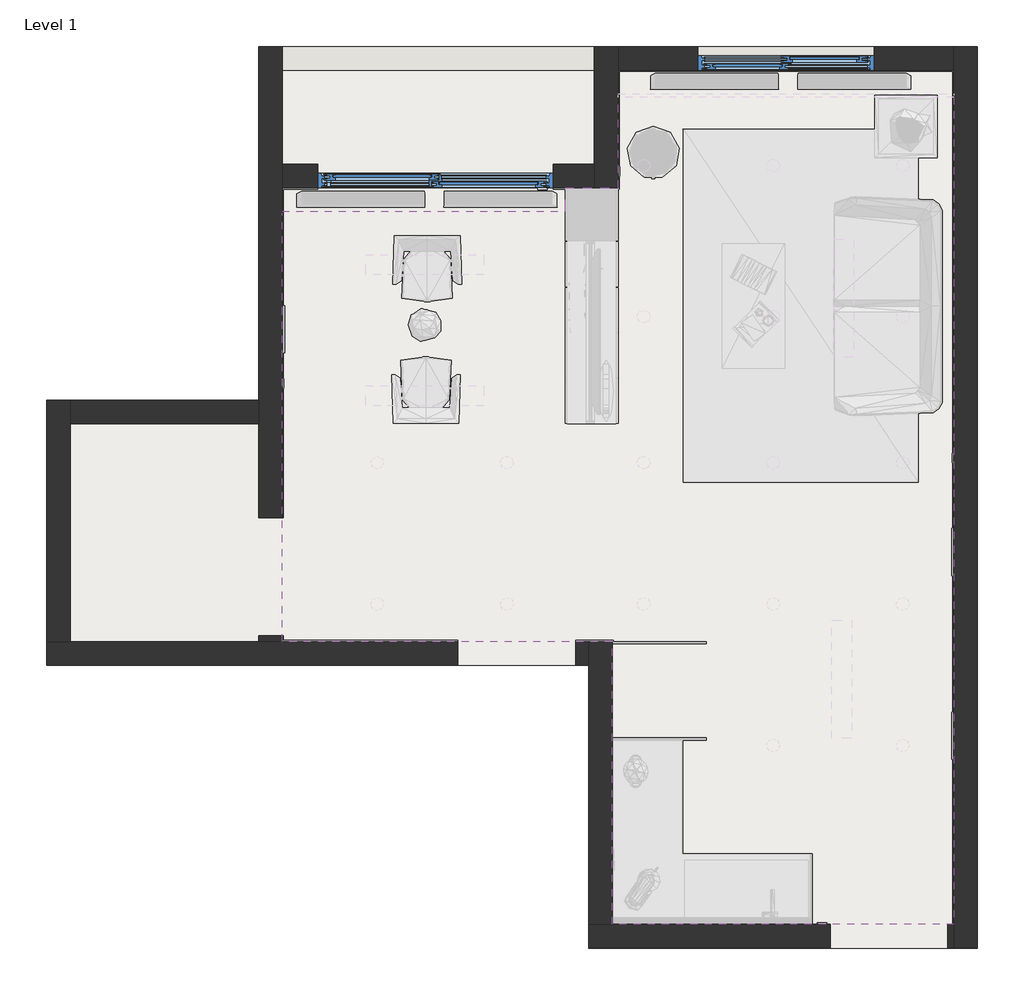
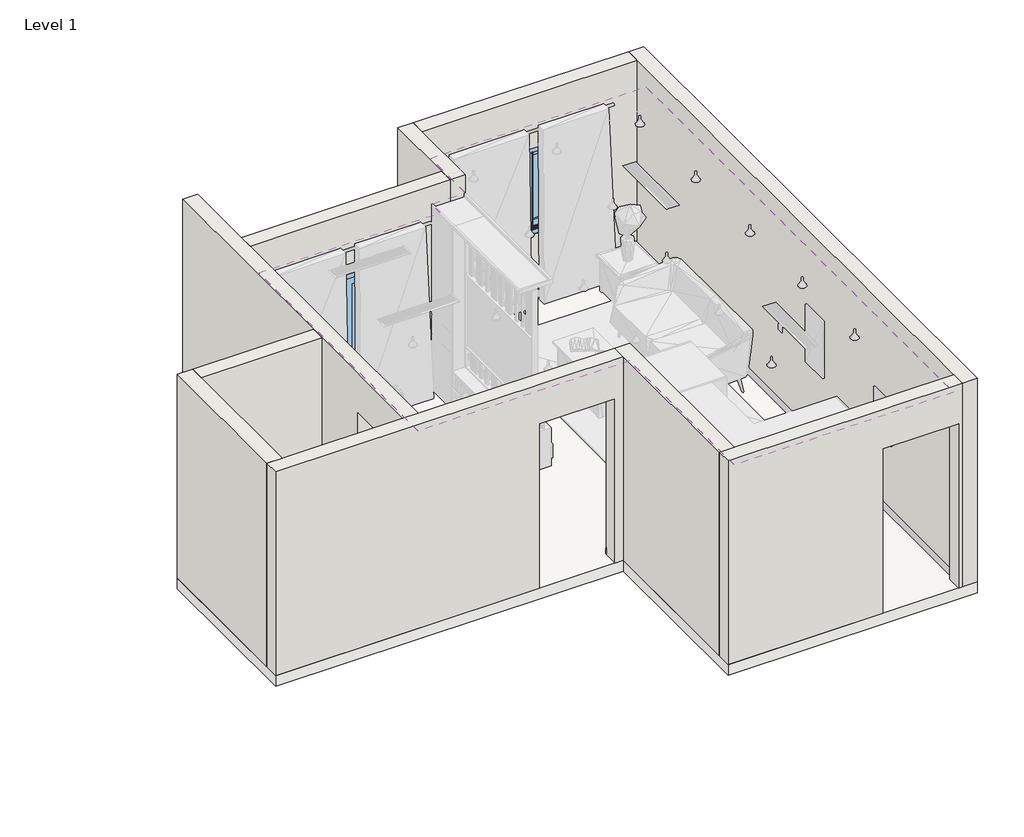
# One storey, part 1 of 4: 11 walls, 2 windows, 1 covering, 1 slab.
"""IFC4 building model written with IfcOpenShell, lengths in millimetres."""

from ifc_helpers import new_model, si_unit, frame, origin, origin_with_axes, place, context, project, spatial, polyline, circle_curve, outline, extrude, faceted_brep, transform, mapped, element, save
from ifc_brep_helpers import plane_surface, revolved_surface, advanced_brep
from components import window_30185021, window_ca4f18a3

model = new_model("IFC4")

# Units and contexts
model_context = context("Model", 3, world=origin())
ifc_project = project(units=[si_unit("LENGTHUNIT", "METRE", prefix="MILLI")], contexts=[model_context])

# Site, building, storey
site = spatial("IfcSite", under=ifc_project)
building = spatial("IfcBuilding", under=site)
storey = spatial("IfcBuildingStorey", under=building, Name="Level 1", Elevation=0.0)

# Covering
placement = place(None, origin())
element("IfcCovering", 1, ObjectType="600 x 1200mm Grid", at=placement, inside=storey, context=model_context, shape_type="AdvancedBrep", body=[
    advanced_brep(
    [(-1392.1161882, 368.9239272, 2630.0), (-3792.1161882, 368.9239272, 2630.0), (-3792.1161882, -3281.0760728, 2630.0), (-992.1161882, -3281.0760728, 2630.0), (-992.1161882, -5681.0760728, 2630.0), (1907.8838118, -5681.0760728, 2630.0), (1907.8838118, 1368.9239272, 2630.0), (-942.1161882, 1368.9239272, 2630.0), (-942.1161882, 568.9239272, 2630.0), (-1392.1161882, 568.9239272, 2630.0), (-2929.5820154, -1762.4738533, 2630.0), (-3040.318702, -1762.4738533, 2630.0), (-2929.5820154, -2962.4738533, 2630.0), (-3040.318702, -2962.4738533, 2630.0), (-1829.5820154, -1762.4738533, 2630.0), (-1940.318702, -1762.4738533, 2630.0), (-1829.5820154, -2962.4738533, 2630.0), (-1940.318702, -2962.4738533, 2630.0), (-669.5820154, -1762.4738533, 2630.0), (-780.318702, -1762.4738533, 2630.0), (-669.5820154, -2962.4738533, 2630.0), (-780.318702, -2962.4738533, 2630.0), (430.4179846, -1762.4738533, 2630.0), (319.681298, -1762.4738533, 2630.0), (430.4179846, -2962.4738533, 2630.0), (319.681298, -2962.4738533, 2630.0), (1530.4179846, -1762.4738533, 2630.0), (1419.681298, -1762.4738533, 2630.0), (1530.4179846, -2962.4738533, 2630.0), (1419.681298, -2962.4738533, 2630.0), (1530.4179846, -4162.4738533, 2630.0), (1419.681298, -4162.4738533, 2630.0), (430.4179846, -4162.4738533, 2630.0), (319.681298, -4162.4738533, 2630.0), (1530.4179846, -522.4738533, 2630.0), (1419.681298, -522.4738533, 2630.0), (430.4179846, -522.4738533, 2630.0), (319.681298, -522.4738533, 2630.0), (-669.5820154, -522.4738533, 2630.0), (-780.318702, -522.4738533, 2630.0), (1530.4179846, 757.5261467, 2630.0), (1419.681298, 757.5261467, 2630.0), (430.4179846, 757.5261467, 2630.0), (319.681298, 757.5261467, 2630.0), (-669.5820154, 757.5261467, 2630.0), (-780.318702, 757.5261467, 2630.0), (-2082.1161882, 2.4659434, 2630.0), (-2082.1161882, -167.5340566, 2630.0), (-3082.1161882, -167.5340566, 2630.0), (-3082.1161882, 2.4659434, 2630.0), (-2082.1161882, -1111.2192408, 2630.0), (-2082.1161882, -1281.2192408, 2630.0), (-3082.1161882, -1281.2192408, 2630.0), (-3082.1161882, -1111.2192408, 2630.0), (1042.7021134, -3101.0760728, 2630.0), (1042.7021134, -4101.0760728, 2630.0), (872.7021134, -4101.0760728, 2630.0), (872.7021134, -3101.0760728, 2630.0), (1058.0838118, -866.9079454, 2630.0), (888.0838118, -866.9079454, 2630.0), (888.0838118, 133.0920546, 2630.0), (1058.0838118, 133.0920546, 2630.0), (-3792.1161882, 368.9239272, 2600.0), (-1392.1161882, 368.9239272, 2600.0), (-1392.1161882, 568.9239272, 2600.0), (-942.1161882, 568.9239272, 2600.0), (-942.1161882, 1338.9239272, 2600.0), (-942.1161882, 1368.9239272, 2600.0), (1907.8838118, 1368.9239272, 2600.0), (1907.8838118, 1338.9239272, 2600.0), (1907.8838118, -5681.0760728, 2600.0), (-992.1161882, -5681.0760728, 2600.0), (-992.1161882, -3281.0760728, 2600.0), (-3792.1161882, -3281.0760728, 2600.0), (-3792.1161882, 338.9239272, 2600.0), (-3040.318702, -1762.4738533, 2600.0), (-2929.5820154, -1762.4738533, 2600.0), (-3040.318702, -2962.4738533, 2600.0), (-2929.5820154, -2962.4738533, 2600.0), (-1940.318702, -1762.4738533, 2600.0), (-1829.5820154, -1762.4738533, 2600.0), (-1940.318702, -2962.4738533, 2600.0), (-1829.5820154, -2962.4738533, 2600.0), (-780.318702, -1762.4738533, 2600.0), (-669.5820154, -1762.4738533, 2600.0), (-780.318702, -2962.4738533, 2600.0), (-669.5820154, -2962.4738533, 2600.0), (319.681298, -1762.4738533, 2600.0), (430.4179846, -1762.4738533, 2600.0), (319.681298, -2962.4738533, 2600.0), (430.4179846, -2962.4738533, 2600.0), (1419.681298, -1762.4738533, 2600.0), (1530.4179846, -1762.4738533, 2600.0), (1419.681298, -2962.4738533, 2600.0), (1530.4179846, -2962.4738533, 2600.0), (1419.681298, -4162.4738533, 2600.0), (1530.4179846, -4162.4738533, 2600.0), (319.681298, -4162.4738533, 2600.0), (430.4179846, -4162.4738533, 2600.0), (1419.681298, -522.4738533, 2600.0), (1530.4179846, -522.4738533, 2600.0), (319.681298, -522.4738533, 2600.0), (430.4179846, -522.4738533, 2600.0), (-780.318702, -522.4738533, 2600.0), (-669.5820154, -522.4738533, 2600.0), (1419.681298, 757.5261467, 2600.0), (1530.4179846, 757.5261467, 2600.0), (319.681298, 757.5261467, 2600.0), (430.4179846, 757.5261467, 2600.0), (-780.318702, 757.5261467, 2600.0), (-669.5820154, 757.5261467, 2600.0), (-2082.1161882, -167.5340566, 2600.0), (-2082.1161882, 2.4659434, 2600.0), (-3082.1161882, 2.4659434, 2600.0), (-3082.1161882, -167.5340566, 2600.0), (-2082.1161882, -1281.2192408, 2600.0), (-2082.1161882, -1111.2192408, 2600.0), (-3082.1161882, -1111.2192408, 2600.0), (-3082.1161882, -1281.2192408, 2600.0), (1042.7021134, -4101.0760728, 2600.0), (1042.7021134, -3101.0760728, 2600.0), (872.7021134, -3101.0760728, 2600.0), (872.7021134, -4101.0760728, 2600.0), (888.0838118, -866.9079454, 2600.0), (1058.0838118, -866.9079454, 2600.0), (1058.0838118, 133.0920546, 2600.0), (888.0838118, 133.0920546, 2600.0)],
    [
        (0, 1),
        (1, 2),
        (2, 3),
        (3, 4),
        (4, 5),
        (5, 6),
        (6, 7),
        (7, 8),
        (8, 9),
        (9, 0),
        (10, 11, circle_curve(frame((-2984.9503587, -1762.4738533, 2630.0), z_axis=(0.0, 0.0, -1.0), x_axis=(-1.0, 0.0, 0.0)), 55.3683433)),
        (11, 10, circle_curve(frame((-2984.9503587, -1762.4738533, 2630.0), z_axis=(0.0, 0.0, -1.0), x_axis=(-1.0, 0.0, 0.0)), 55.3683433)),
        (12, 13, circle_curve(frame((-2984.9503587, -2962.4738533, 2630.0), z_axis=(0.0, 0.0, -1.0), x_axis=(-1.0, 0.0, 0.0)), 55.3683433)),
        (13, 12, circle_curve(frame((-2984.9503587, -2962.4738533, 2630.0), z_axis=(0.0, 0.0, -1.0), x_axis=(-1.0, 0.0, 0.0)), 55.3683433)),
        (14, 15, circle_curve(frame((-1884.9503587, -1762.4738533, 2630.0), z_axis=(0.0, 0.0, -1.0), x_axis=(-1.0, 0.0, 0.0)), 55.3683433)),
        (15, 14, circle_curve(frame((-1884.9503587, -1762.4738533, 2630.0), z_axis=(0.0, 0.0, -1.0), x_axis=(-1.0, 0.0, 0.0)), 55.3683433)),
        (16, 17, circle_curve(frame((-1884.9503587, -2962.4738533, 2630.0), z_axis=(0.0, 0.0, -1.0), x_axis=(-1.0, 0.0, 0.0)), 55.3683433)),
        (17, 16, circle_curve(frame((-1884.9503587, -2962.4738533, 2630.0), z_axis=(0.0, 0.0, -1.0), x_axis=(-1.0, 0.0, 0.0)), 55.3683433)),
        (18, 19, circle_curve(frame((-724.9503587, -1762.4738533, 2630.0), z_axis=(0.0, 0.0, -1.0), x_axis=(-1.0, 0.0, 0.0)), 55.3683433)),
        (19, 18, circle_curve(frame((-724.9503587, -1762.4738533, 2630.0), z_axis=(0.0, 0.0, -1.0), x_axis=(-1.0, 0.0, 0.0)), 55.3683433)),
        (20, 21, circle_curve(frame((-724.9503587, -2962.4738533, 2630.0), z_axis=(0.0, 0.0, -1.0), x_axis=(-1.0, 0.0, 0.0)), 55.3683433)),
        (21, 20, circle_curve(frame((-724.9503587, -2962.4738533, 2630.0), z_axis=(0.0, 0.0, -1.0), x_axis=(-1.0, 0.0, 0.0)), 55.3683433)),
        (22, 23, circle_curve(frame((375.0496413, -1762.4738533, 2630.0), z_axis=(0.0, 0.0, -1.0), x_axis=(-1.0, 0.0, 0.0)), 55.3683433)),
        (23, 22, circle_curve(frame((375.0496413, -1762.4738533, 2630.0), z_axis=(0.0, 0.0, -1.0), x_axis=(-1.0, 0.0, 0.0)), 55.3683433)),
        (24, 25, circle_curve(frame((375.0496413, -2962.4738533, 2630.0), z_axis=(0.0, 0.0, -1.0), x_axis=(-1.0, 0.0, 0.0)), 55.3683433)),
        (25, 24, circle_curve(frame((375.0496413, -2962.4738533, 2630.0), z_axis=(0.0, 0.0, -1.0), x_axis=(-1.0, 0.0, 0.0)), 55.3683433)),
        (26, 27, circle_curve(frame((1475.0496413, -1762.4738533, 2630.0), z_axis=(0.0, 0.0, -1.0), x_axis=(-1.0, 0.0, 0.0)), 55.3683433)),
        (27, 26, circle_curve(frame((1475.0496413, -1762.4738533, 2630.0), z_axis=(0.0, 0.0, -1.0), x_axis=(-1.0, 0.0, 0.0)), 55.3683433)),
        (28, 29, circle_curve(frame((1475.0496413, -2962.4738533, 2630.0), z_axis=(0.0, 0.0, -1.0), x_axis=(-1.0, 0.0, 0.0)), 55.3683433)),
        (29, 28, circle_curve(frame((1475.0496413, -2962.4738533, 2630.0), z_axis=(0.0, 0.0, -1.0), x_axis=(-1.0, 0.0, 0.0)), 55.3683433)),
        (30, 31, circle_curve(frame((1475.0496413, -4162.4738533, 2630.0), z_axis=(0.0, 0.0, -1.0), x_axis=(-1.0, 0.0, 0.0)), 55.3683433)),
        (31, 30, circle_curve(frame((1475.0496413, -4162.4738533, 2630.0), z_axis=(0.0, 0.0, -1.0), x_axis=(-1.0, 0.0, 0.0)), 55.3683433)),
        (32, 33, circle_curve(frame((375.0496413, -4162.4738533, 2630.0), z_axis=(0.0, 0.0, -1.0), x_axis=(-1.0, 0.0, 0.0)), 55.3683433)),
        (33, 32, circle_curve(frame((375.0496413, -4162.4738533, 2630.0), z_axis=(0.0, 0.0, -1.0), x_axis=(-1.0, 0.0, 0.0)), 55.3683433)),
        (34, 35, circle_curve(frame((1475.0496413, -522.4738533, 2630.0), z_axis=(0.0, 0.0, -1.0), x_axis=(-1.0, 0.0, 0.0)), 55.3683433)),
        (35, 34, circle_curve(frame((1475.0496413, -522.4738533, 2630.0), z_axis=(0.0, 0.0, -1.0), x_axis=(-1.0, 0.0, 0.0)), 55.3683433)),
        (36, 37, circle_curve(frame((375.0496413, -522.4738533, 2630.0), z_axis=(0.0, 0.0, -1.0), x_axis=(-1.0, 0.0, 0.0)), 55.3683433)),
        (37, 36, circle_curve(frame((375.0496413, -522.4738533, 2630.0), z_axis=(0.0, 0.0, -1.0), x_axis=(-1.0, 0.0, 0.0)), 55.3683433)),
        (38, 39, circle_curve(frame((-724.9503587, -522.4738533, 2630.0), z_axis=(0.0, 0.0, -1.0), x_axis=(-1.0, 0.0, 0.0)), 55.3683433)),
        (39, 38, circle_curve(frame((-724.9503587, -522.4738533, 2630.0), z_axis=(0.0, 0.0, -1.0), x_axis=(-1.0, 0.0, 0.0)), 55.3683433)),
        (40, 41, circle_curve(frame((1475.0496413, 757.5261467, 2630.0), z_axis=(0.0, 0.0, -1.0), x_axis=(-1.0, 0.0, 0.0)), 55.3683433)),
        (41, 40, circle_curve(frame((1475.0496413, 757.5261467, 2630.0), z_axis=(0.0, 0.0, -1.0), x_axis=(-1.0, 0.0, 0.0)), 55.3683433)),
        (42, 43, circle_curve(frame((375.0496413, 757.5261467, 2630.0), z_axis=(0.0, 0.0, -1.0), x_axis=(-1.0, 0.0, 0.0)), 55.3683433)),
        (43, 42, circle_curve(frame((375.0496413, 757.5261467, 2630.0), z_axis=(0.0, 0.0, -1.0), x_axis=(-1.0, 0.0, 0.0)), 55.3683433)),
        (44, 45, circle_curve(frame((-724.9503587, 757.5261467, 2630.0), z_axis=(0.0, 0.0, -1.0), x_axis=(-1.0, 0.0, 0.0)), 55.3683433)),
        (45, 44, circle_curve(frame((-724.9503587, 757.5261467, 2630.0), z_axis=(0.0, 0.0, -1.0), x_axis=(-1.0, 0.0, 0.0)), 55.3683433)),
        (46, 47),
        (47, 48),
        (48, 49),
        (49, 46),
        (50, 51),
        (51, 52),
        (52, 53),
        (53, 50),
        (54, 55),
        (55, 56),
        (56, 57),
        (57, 54),
        (58, 59),
        (59, 60),
        (60, 61),
        (61, 58),
        (62, 63),
        (63, 64),
        (64, 65),
        (65, 66),
        (66, 67),
        (67, 68),
        (68, 69),
        (69, 70),
        (70, 71),
        (71, 72),
        (72, 73),
        (73, 74),
        (74, 62),
        (75, 76, circle_curve(frame((-2984.9503587, -1762.4738533, 2600.0), z_axis=(0.0, 0.0, 1.0), x_axis=(-1.0, 0.0, 0.0)), 55.3683433)),
        (76, 75, circle_curve(frame((-2984.9503587, -1762.4738533, 2600.0), z_axis=(0.0, 0.0, 1.0), x_axis=(-1.0, 0.0, 0.0)), 55.3683433)),
        (77, 78, circle_curve(frame((-2984.9503587, -2962.4738533, 2600.0), z_axis=(0.0, 0.0, 1.0), x_axis=(-1.0, 0.0, 0.0)), 55.3683433)),
        (78, 77, circle_curve(frame((-2984.9503587, -2962.4738533, 2600.0), z_axis=(0.0, 0.0, 1.0), x_axis=(-1.0, 0.0, 0.0)), 55.3683433)),
        (79, 80, circle_curve(frame((-1884.9503587, -1762.4738533, 2600.0), z_axis=(0.0, 0.0, 1.0), x_axis=(-1.0, 0.0, 0.0)), 55.3683433)),
        (80, 79, circle_curve(frame((-1884.9503587, -1762.4738533, 2600.0), z_axis=(0.0, 0.0, 1.0), x_axis=(-1.0, 0.0, 0.0)), 55.3683433)),
        (81, 82, circle_curve(frame((-1884.9503587, -2962.4738533, 2600.0), z_axis=(0.0, 0.0, 1.0), x_axis=(-1.0, 0.0, 0.0)), 55.3683433)),
        (82, 81, circle_curve(frame((-1884.9503587, -2962.4738533, 2600.0), z_axis=(0.0, 0.0, 1.0), x_axis=(-1.0, 0.0, 0.0)), 55.3683433)),
        (83, 84, circle_curve(frame((-724.9503587, -1762.4738533, 2600.0), z_axis=(0.0, 0.0, 1.0), x_axis=(-1.0, 0.0, 0.0)), 55.3683433)),
        (84, 83, circle_curve(frame((-724.9503587, -1762.4738533, 2600.0), z_axis=(0.0, 0.0, 1.0), x_axis=(-1.0, 0.0, 0.0)), 55.3683433)),
        (85, 86, circle_curve(frame((-724.9503587, -2962.4738533, 2600.0), z_axis=(0.0, 0.0, 1.0), x_axis=(-1.0, 0.0, 0.0)), 55.3683433)),
        (86, 85, circle_curve(frame((-724.9503587, -2962.4738533, 2600.0), z_axis=(0.0, 0.0, 1.0), x_axis=(-1.0, 0.0, 0.0)), 55.3683433)),
        (87, 88, circle_curve(frame((375.0496413, -1762.4738533, 2600.0), z_axis=(0.0, 0.0, 1.0), x_axis=(-1.0, 0.0, 0.0)), 55.3683433)),
        (88, 87, circle_curve(frame((375.0496413, -1762.4738533, 2600.0), z_axis=(0.0, 0.0, 1.0), x_axis=(-1.0, 0.0, 0.0)), 55.3683433)),
        (89, 90, circle_curve(frame((375.0496413, -2962.4738533, 2600.0), z_axis=(0.0, 0.0, 1.0), x_axis=(-1.0, 0.0, 0.0)), 55.3683433)),
        (90, 89, circle_curve(frame((375.0496413, -2962.4738533, 2600.0), z_axis=(0.0, 0.0, 1.0), x_axis=(-1.0, 0.0, 0.0)), 55.3683433)),
        (91, 92, circle_curve(frame((1475.0496413, -1762.4738533, 2600.0), z_axis=(0.0, 0.0, 1.0), x_axis=(-1.0, 0.0, 0.0)), 55.3683433)),
        (92, 91, circle_curve(frame((1475.0496413, -1762.4738533, 2600.0), z_axis=(0.0, 0.0, 1.0), x_axis=(-1.0, 0.0, 0.0)), 55.3683433)),
        (93, 94, circle_curve(frame((1475.0496413, -2962.4738533, 2600.0), z_axis=(0.0, 0.0, 1.0), x_axis=(-1.0, 0.0, 0.0)), 55.3683433)),
        (94, 93, circle_curve(frame((1475.0496413, -2962.4738533, 2600.0), z_axis=(0.0, 0.0, 1.0), x_axis=(-1.0, 0.0, 0.0)), 55.3683433)),
        (95, 96, circle_curve(frame((1475.0496413, -4162.4738533, 2600.0), z_axis=(0.0, 0.0, 1.0), x_axis=(-1.0, 0.0, 0.0)), 55.3683433)),
        (96, 95, circle_curve(frame((1475.0496413, -4162.4738533, 2600.0), z_axis=(0.0, 0.0, 1.0), x_axis=(-1.0, 0.0, 0.0)), 55.3683433)),
        (97, 98, circle_curve(frame((375.0496413, -4162.4738533, 2600.0), z_axis=(0.0, 0.0, 1.0), x_axis=(-1.0, 0.0, 0.0)), 55.3683433)),
        (98, 97, circle_curve(frame((375.0496413, -4162.4738533, 2600.0), z_axis=(0.0, 0.0, 1.0), x_axis=(-1.0, 0.0, 0.0)), 55.3683433)),
        (99, 100, circle_curve(frame((1475.0496413, -522.4738533, 2600.0), z_axis=(0.0, 0.0, 1.0), x_axis=(-1.0, 0.0, 0.0)), 55.3683433)),
        (100, 99, circle_curve(frame((1475.0496413, -522.4738533, 2600.0), z_axis=(0.0, 0.0, 1.0), x_axis=(-1.0, 0.0, 0.0)), 55.3683433)),
        (101, 102, circle_curve(frame((375.0496413, -522.4738533, 2600.0), z_axis=(0.0, 0.0, 1.0), x_axis=(-1.0, 0.0, 0.0)), 55.3683433)),
        (102, 101, circle_curve(frame((375.0496413, -522.4738533, 2600.0), z_axis=(0.0, 0.0, 1.0), x_axis=(-1.0, 0.0, 0.0)), 55.3683433)),
        (103, 104, circle_curve(frame((-724.9503587, -522.4738533, 2600.0), z_axis=(0.0, 0.0, 1.0), x_axis=(-1.0, 0.0, 0.0)), 55.3683433)),
        (104, 103, circle_curve(frame((-724.9503587, -522.4738533, 2600.0), z_axis=(0.0, 0.0, 1.0), x_axis=(-1.0, 0.0, 0.0)), 55.3683433)),
        (105, 106, circle_curve(frame((1475.0496413, 757.5261467, 2600.0), z_axis=(0.0, 0.0, 1.0), x_axis=(-1.0, 0.0, 0.0)), 55.3683433)),
        (106, 105, circle_curve(frame((1475.0496413, 757.5261467, 2600.0), z_axis=(0.0, 0.0, 1.0), x_axis=(-1.0, 0.0, 0.0)), 55.3683433)),
        (107, 108, circle_curve(frame((375.0496413, 757.5261467, 2600.0), z_axis=(0.0, 0.0, 1.0), x_axis=(-1.0, 0.0, 0.0)), 55.3683433)),
        (108, 107, circle_curve(frame((375.0496413, 757.5261467, 2600.0), z_axis=(0.0, 0.0, 1.0), x_axis=(-1.0, 0.0, 0.0)), 55.3683433)),
        (109, 110, circle_curve(frame((-724.9503587, 757.5261467, 2600.0), z_axis=(0.0, 0.0, 1.0), x_axis=(-1.0, 0.0, 0.0)), 55.3683433)),
        (110, 109, circle_curve(frame((-724.9503587, 757.5261467, 2600.0), z_axis=(0.0, 0.0, 1.0), x_axis=(-1.0, 0.0, 0.0)), 55.3683433)),
        (111, 112),
        (112, 113),
        (113, 114),
        (114, 111),
        (115, 116),
        (116, 117),
        (117, 118),
        (118, 115),
        (119, 120),
        (120, 121),
        (121, 122),
        (122, 119),
        (123, 124),
        (124, 125),
        (125, 126),
        (126, 123),
        (0, 63),
        (62, 1),
        (73, 2),
        (72, 3),
        (71, 4),
        (70, 5),
        (68, 6),
        (67, 7),
        (65, 8),
        (64, 9),
        (10, 76),
        (75, 11),
        (12, 78),
        (77, 13),
        (14, 80),
        (79, 15),
        (16, 82),
        (81, 17),
        (18, 84),
        (83, 19),
        (20, 86),
        (85, 21),
        (22, 88),
        (87, 23),
        (24, 90),
        (89, 25),
        (26, 92),
        (91, 27),
        (28, 94),
        (93, 29),
        (30, 96),
        (95, 31),
        (32, 98),
        (97, 33),
        (34, 100),
        (99, 35),
        (36, 102),
        (101, 37),
        (38, 104),
        (103, 39),
        (40, 106),
        (105, 41),
        (42, 108),
        (107, 43),
        (44, 110),
        (109, 45),
        (46, 112),
        (111, 47),
        (114, 48),
        (113, 49),
        (50, 116),
        (115, 51),
        (118, 52),
        (117, 53),
        (54, 120),
        (119, 55),
        (122, 56),
        (121, 57),
        (58, 124),
        (123, 59),
        (126, 60),
        (125, 61),
    ],
    [
        plane_surface(frame((-3792.1161882, 368.9239272, 2630.0), z_axis=(0.0, 0.0, 1.0), x_axis=(-1.0, 0.0, 0.0))),
        plane_surface(frame((-3792.1161882, 368.9239272, 2600.0), z_axis=(0.0, 0.0, -1.0), x_axis=(1.0, 0.0, 0.0))),
        plane_surface(frame((-1392.1161882, 368.9239272, 2630.0), z_axis=(0.0, 1.0, 0.0), x_axis=(0.0, 0.0, -1.0))),
        plane_surface(frame((-3792.1161882, 368.9239272, 2630.0), z_axis=(-1.0, 0.0, 0.0), x_axis=(0.0, 0.0, -1.0))),
        plane_surface(frame((-3792.1161882, -3281.0760728, 2630.0), z_axis=(0.0, -1.0, 0.0), x_axis=(0.0, 0.0, -1.0))),
        plane_surface(frame((-992.1161882, -3281.0760728, 2630.0), z_axis=(-1.0, 0.0, 0.0), x_axis=(0.0, 0.0, -1.0))),
        plane_surface(frame((-992.1161882, -5681.0760728, 2630.0), z_axis=(0.0, -1.0, 0.0), x_axis=(0.0, 0.0, -1.0))),
        plane_surface(frame((1907.8838118, -5681.0760728, 2630.0), z_axis=(1.0, 0.0, 0.0), x_axis=(0.0, 0.0, -1.0))),
        plane_surface(frame((1907.8838118, 1368.9239272, 2630.0), z_axis=(0.0, 1.0, 0.0), x_axis=(0.0, 0.0, -1.0))),
        plane_surface(frame((-942.1161882, 1368.9239272, 2630.0), z_axis=(-1.0, 0.0, 0.0), x_axis=(0.0, 0.0, -1.0))),
        plane_surface(frame((-942.1161882, 568.9239272, 2630.0), z_axis=(0.0, 1.0, 0.0), x_axis=(0.0, 0.0, -1.0))),
        plane_surface(frame((-1392.1161882, 568.9239272, 2630.0), z_axis=(-1.0, 0.0, 0.0), x_axis=(0.0, 0.0, -1.0))),
        revolved_surface(polyline([(-3040.318702, -1762.4738533, 2600.0), (-3040.318702, -1762.4738533, 2630.0)]), (-2984.9503587, -1762.4738533, 2761.9214621), (0.0, 0.0, -1.0)),
        revolved_surface(polyline([(-3040.318702, -2962.4738533, 2600.0), (-3040.318702, -2962.4738533, 2630.0)]), (-2984.9503587, -2962.4738533, 2761.9214621), (0.0, 0.0, -1.0)),
        revolved_surface(polyline([(-1940.318702, -1762.4738533, 2600.0), (-1940.318702, -1762.4738533, 2630.0)]), (-1884.9503587, -1762.4738533, 2761.9214621), (0.0, 0.0, -1.0)),
        revolved_surface(polyline([(-1940.318702, -2962.4738533, 2600.0), (-1940.318702, -2962.4738533, 2630.0)]), (-1884.9503587, -2962.4738533, 2761.9214621), (0.0, 0.0, -1.0)),
        revolved_surface(polyline([(-780.318702, -1762.4738533, 2600.0), (-780.318702, -1762.4738533, 2630.0)]), (-724.9503587, -1762.4738533, 2761.9214621), (0.0, 0.0, -1.0)),
        revolved_surface(polyline([(-780.318702, -2962.4738533, 2600.0), (-780.318702, -2962.4738533, 2630.0)]), (-724.9503587, -2962.4738533, 2761.9214621), (0.0, 0.0, -1.0)),
        revolved_surface(polyline([(319.681298, -1762.4738533, 2600.0), (319.681298, -1762.4738533, 2630.0)]), (375.0496413, -1762.4738533, 2761.9214621), (0.0, 0.0, -1.0)),
        revolved_surface(polyline([(319.681298, -2962.4738533, 2600.0), (319.681298, -2962.4738533, 2630.0)]), (375.0496413, -2962.4738533, 2761.9214621), (0.0, 0.0, -1.0)),
        revolved_surface(polyline([(1419.681298, -1762.4738533, 2600.0), (1419.681298, -1762.4738533, 2630.0)]), (1475.0496413, -1762.4738533, 2761.9214621), (0.0, 0.0, -1.0)),
        revolved_surface(polyline([(1419.681298, -2962.4738533, 2600.0), (1419.681298, -2962.4738533, 2630.0)]), (1475.0496413, -2962.4738533, 2761.9214621), (0.0, 0.0, -1.0)),
        revolved_surface(polyline([(1419.681298, -4162.4738533, 2600.0), (1419.681298, -4162.4738533, 2630.0)]), (1475.0496413, -4162.4738533, 2761.9214621), (0.0, 0.0, -1.0)),
        revolved_surface(polyline([(319.681298, -4162.4738533, 2600.0), (319.681298, -4162.4738533, 2630.0)]), (375.0496413, -4162.4738533, 2761.9214621), (0.0, 0.0, -1.0)),
        revolved_surface(polyline([(1419.681298, -522.4738533, 2600.0), (1419.681298, -522.4738533, 2630.0)]), (1475.0496413, -522.4738533, 2761.9214621), (0.0, 0.0, -1.0)),
        revolved_surface(polyline([(319.681298, -522.4738533, 2600.0), (319.681298, -522.4738533, 2630.0)]), (375.0496413, -522.4738533, 2761.9214621), (0.0, 0.0, -1.0)),
        revolved_surface(polyline([(-780.318702, -522.4738533, 2600.0), (-780.318702, -522.4738533, 2630.0)]), (-724.9503587, -522.4738533, 2761.9214621), (0.0, 0.0, -1.0)),
        revolved_surface(polyline([(1419.681298, 757.5261467, 2600.0), (1419.681298, 757.5261467, 2630.0)]), (1475.0496413, 757.5261467, 2761.9214621), (0.0, 0.0, -1.0)),
        revolved_surface(polyline([(319.681298, 757.5261467, 2600.0), (319.681298, 757.5261467, 2630.0)]), (375.0496413, 757.5261467, 2761.9214621), (0.0, 0.0, -1.0)),
        revolved_surface(polyline([(-780.318702, 757.5261467, 2600.0), (-780.318702, 757.5261467, 2630.0)]), (-724.9503587, 757.5261467, 2761.9214621), (0.0, 0.0, -1.0)),
        plane_surface(frame((-2082.1161882, 2.4659434, 2630.0), z_axis=(-1.0, 0.0, 0.0), x_axis=(0.0, 0.0, -1.0))),
        plane_surface(frame((-2082.1161882, -167.5340566, 2630.0), z_axis=(0.0, 1.0, 0.0), x_axis=(0.0, 0.0, -1.0))),
        plane_surface(frame((-3082.1161882, -167.5340566, 2630.0), z_axis=(1.0, 0.0, 0.0), x_axis=(0.0, 0.0, -1.0))),
        plane_surface(frame((-3082.1161882, 2.4659434, 2630.0), z_axis=(0.0, -1.0, 0.0), x_axis=(0.0, 0.0, -1.0))),
        plane_surface(frame((-2082.1161882, -1111.2192408, 2630.0), z_axis=(-1.0, 0.0, 0.0), x_axis=(0.0, 0.0, -1.0))),
        plane_surface(frame((-2082.1161882, -1281.2192408, 2630.0), z_axis=(0.0, 1.0, 0.0), x_axis=(0.0, 0.0, -1.0))),
        plane_surface(frame((-3082.1161882, -1281.2192408, 2630.0), z_axis=(1.0, 0.0, 0.0), x_axis=(0.0, 0.0, -1.0))),
        plane_surface(frame((-3082.1161882, -1111.2192408, 2630.0), z_axis=(0.0, -1.0, 0.0), x_axis=(0.0, 0.0, -1.0))),
        plane_surface(frame((1042.7021134, -3101.0760728, 2630.0), z_axis=(-1.0, 0.0, 0.0), x_axis=(0.0, 0.0, -1.0))),
        plane_surface(frame((1042.7021134, -4101.0760728, 2630.0), z_axis=(0.0, 1.0, 0.0), x_axis=(0.0, 0.0, -1.0))),
        plane_surface(frame((872.7021134, -4101.0760728, 2630.0), z_axis=(1.0, 0.0, 0.0), x_axis=(0.0, 0.0, -1.0))),
        plane_surface(frame((872.7021134, -3101.0760728, 2630.0), z_axis=(0.0, -1.0, 0.0), x_axis=(0.0, 0.0, -1.0))),
        plane_surface(frame((1058.0838118, -866.9079454, 2630.0), z_axis=(0.0, 1.0, 0.0), x_axis=(0.0, 0.0, -1.0))),
        plane_surface(frame((888.0838118, -866.9079454, 2630.0), z_axis=(1.0, 0.0, 0.0), x_axis=(0.0, 0.0, -1.0))),
        plane_surface(frame((888.0838118, 133.0920546, 2630.0), z_axis=(0.0, -1.0, 0.0), x_axis=(0.0, 0.0, -1.0))),
        plane_surface(frame((1058.0838118, 133.0920546, 2630.0), z_axis=(-1.0, 0.0, 0.0), x_axis=(0.0, 0.0, -1.0))),
    ],
    [
        (0, [[1, 2, 3, 4, 5, 6, 7, 8, 9, 10], [11, 12], [13, 14], [15, 16], [17, 18], [19, 20], [21, 22], [23, 24], [25, 26], [27, 28], [29, 30], [31, 32], [33, 34], [35, 36], [37, 38], [39, 40], [41, 42], [43, 44], [45, 46], [47, 48, 49, 50], [51, 52, 53, 54], [55, 56, 57, 58], [59, 60, 61, 62]]),
        (1, [[63, 64, 65, 66, 67, 68, 69, 70, 71, 72, 73, 74, 75], [76, 77], [78, 79], [80, 81], [82, 83], [84, 85], [86, 87], [88, 89], [90, 91], [92, 93], [94, 95], [96, 97], [98, 99], [100, 101], [102, 103], [104, 105], [106, 107], [108, 109], [110, 111], [112, 113, 114, 115], [116, 117, 118, 119], [120, 121, 122, 123], [124, 125, 126, 127]]),
        (2, [[-1, 128, -63, 129]]),
        (3, [[-2, -129, -75, -74, 130]]),
        (4, [[-3, -130, -73, 131]]),
        (5, [[-4, -131, -72, 132]]),
        (6, [[-5, -132, -71, 133]]),
        (7, [[-6, -133, -70, -69, 134]]),
        (8, [[-7, -134, -68, 135]]),
        (9, [[-8, -135, -67, -66, 136]]),
        (10, [[-9, -136, -65, 137]]),
        (11, [[-10, -137, -64, -128]]),
        (12, [[138, -76, 139, -11]]),
        (12, [[-138, -12, -139, -77]]),
        (13, [[140, -78, 141, -13]]),
        (13, [[-140, -14, -141, -79]]),
        (14, [[142, -80, 143, -15]]),
        (14, [[-142, -16, -143, -81]]),
        (15, [[144, -82, 145, -17]]),
        (15, [[-144, -18, -145, -83]]),
        (16, [[146, -84, 147, -19]]),
        (16, [[-146, -20, -147, -85]]),
        (17, [[148, -86, 149, -21]]),
        (17, [[-148, -22, -149, -87]]),
        (18, [[150, -88, 151, -23]]),
        (18, [[-150, -24, -151, -89]]),
        (19, [[152, -90, 153, -25]]),
        (19, [[-152, -26, -153, -91]]),
        (20, [[154, -92, 155, -27]]),
        (20, [[-154, -28, -155, -93]]),
        (21, [[156, -94, 157, -29]]),
        (21, [[-156, -30, -157, -95]]),
        (22, [[158, -96, 159, -31]]),
        (22, [[-158, -32, -159, -97]]),
        (23, [[160, -98, 161, -33]]),
        (23, [[-160, -34, -161, -99]]),
        (24, [[162, -100, 163, -35]]),
        (24, [[-162, -36, -163, -101]]),
        (25, [[164, -102, 165, -37]]),
        (25, [[-164, -38, -165, -103]]),
        (26, [[166, -104, 167, -39]]),
        (26, [[-166, -40, -167, -105]]),
        (27, [[168, -106, 169, -41]]),
        (27, [[-168, -42, -169, -107]]),
        (28, [[170, -108, 171, -43]]),
        (28, [[-170, -44, -171, -109]]),
        (29, [[172, -110, 173, -45]]),
        (29, [[-172, -46, -173, -111]]),
        (30, [[-47, 174, -112, 175]]),
        (31, [[-48, -175, -115, 176]]),
        (32, [[-49, -176, -114, 177]]),
        (33, [[-50, -177, -113, -174]]),
        (34, [[-51, 178, -116, 179]]),
        (35, [[-52, -179, -119, 180]]),
        (36, [[-53, -180, -118, 181]]),
        (37, [[-54, -181, -117, -178]]),
        (38, [[-55, 182, -120, 183]]),
        (39, [[-56, -183, -123, 184]]),
        (40, [[-57, -184, -122, 185]]),
        (41, [[-58, -185, -121, -182]]),
        (42, [[-59, 186, -124, 187]]),
        (43, [[-60, -187, -127, 188]]),
        (44, [[-61, -188, -126, 189]]),
        (45, [[-62, -189, -125, -186]]),
    ],
),
])

# Slab
element("IfcSlab", 2, ObjectType="Generic 150mm", at=placement, inside=storey, context=model_context, shape_type="SweptSolid", body=[
    extrude(outline(polyline([(-1292.1161882, 1768.9239272), (2107.8838118, 1768.9239272), (2107.8838118, -5881.0760728), (-1192.1161882, -5881.0760728), (-1192.1161882, -3481.0760728), (-5792.1161882, -3481.0760728), (-5792.1161882, -1231.0760728), (-3992.1161882, -1231.0760728), (-3992.1161882, 1768.9239272), (-1292.1161882, 1768.9239272)])), frame((0.0, 0.0, -150.0), z_axis=(0.0, 0.0, 1.0), x_axis=(1.0, 0.0, 0.0)), (0.0, 0.0, 1.0), 150.0),
])

# Walls
element("IfcWall", 3, ObjectType="Generic - 200mm", at=placement, inside=storey, context=model_context, shape_type="Brep", body=[
    faceted_brep([(-3792.1161882, 1768.9239272, 0.0), (-3792.1161882, 1768.9239272, 1000.0), (-3792.1161882, 1768.9239272, 2850.0), (-3792.1161882, 768.9239272, 2850.0), (-3792.1161882, 568.9239272, 2850.0), (-3792.1161882, -3281.0760728, 2850.0), (-3792.1161882, -3281.0760728, 0.0), (-3792.1161882, -3231.0760728, 0.0), (-3792.1161882, -3231.0760728, 2300.0), (-3792.1161882, -2231.0760728, 2300.0), (-3792.1161882, -2231.0760728, 0.0), (-3792.1161882, 568.9239272, 0.0), (-3792.1161882, 768.9239272, 0.0), (-3792.1161882, 1568.9239272, 0.0), (-3992.1161882, 1768.9239272, 2850.0), (-3992.1161882, 1768.9239272, 0.0), (-3992.1161882, -1231.0760728, 0.0), (-3992.1161882, -1431.0760728, 0.0), (-3992.1161882, -2231.0760728, 0.0), (-3992.1161882, -2231.0760728, 2300.0), (-3992.1161882, -3231.0760728, 2300.0), (-3992.1161882, -3231.0760728, 0.0), (-3992.1161882, -3281.0760728, 0.0), (-3992.1161882, -3281.0760728, 2850.0), (-3992.1161882, -1431.0760728, 2850.0), (-3992.1161882, -1231.0760728, 2850.0)], [[[0, 1, 2, 3, 4, 5, 6, 7, 8, 9, 10, 11, 12, 13]], [[14, 15, 16, 17, 18, 19, 20, 21, 22, 23, 24, 25]], [[15, 0, 13, 12, 11, 10, 18, 17, 16]], [[6, 22, 21, 7]], [[2, 1, 0, 15, 14]], [[5, 4, 3, 2, 14, 25, 24, 23]], [[6, 5, 23, 22]], [[20, 8, 7, 21]], [[8, 20, 19, 9]], [[9, 19, 18, 10]]]),
])
element("IfcWall", 4, ObjectType="Generic - 200mm", at=placement, inside=storey, context=model_context, shape_type="Brep", body=[
    faceted_brep([(-3792.1161882, 1568.9239272, 0.0), (-1142.1161882, 1568.9239272, 0.0), (-942.1161882, 1568.9239272, 0.0), (-942.1161882, 1568.9239272, 1000.0), (-1142.1161882, 1568.9239272, 1000.0), (-3792.1161882, 1568.9239272, 1000.0), (-3792.1161882, 1768.9239272, 0.0), (-3792.1161882, 1768.9239272, 1000.0), (-1142.1161882, 1768.9239272, 1000.0), (-942.1161882, 1768.9239272, 1000.0), (-942.1161882, 1768.9239272, 0.0)], [[[0, 1, 2, 3, 4, 5]], [[6, 7, 8, 9, 10]], [[2, 1, 0, 6, 10]], [[5, 4, 3, 9, 8, 7]], [[0, 5, 7, 6]], [[3, 2, 10, 9]]]),
])
element("IfcWall", 5, ObjectType="Generic - 200mm", at=placement, inside=storey, context=model_context, shape_type="Brep", body=[
    faceted_brep([(-1142.1161882, 1568.9239272, 0.0), (-1142.1161882, 768.9239272, 0.0), (-1142.1161882, 568.9239272, 0.0), (-1142.1161882, 568.9239272, 100.0), (-1142.1161882, 568.9239272, 2850.0), (-1142.1161882, 768.9239272, 2850.0), (-1142.1161882, 1768.9239272, 2850.0), (-1142.1161882, 1768.9239272, 1000.0), (-1142.1161882, 1568.9239272, 1000.0), (-942.1161882, 568.9239272, 0.0), (-942.1161882, 1568.9239272, 0.0), (-942.1161882, 1568.9239272, 100.0), (-942.1161882, 1568.9239272, 1000.0), (-942.1161882, 1768.9239272, 1000.0), (-942.1161882, 1768.9239272, 2850.0), (-942.1161882, 1568.9239272, 2850.0), (-942.1161882, 568.9239272, 2850.0), (-942.1161882, 568.9239272, 100.0)], [[[0, 1, 2, 3, 4, 5, 6, 7, 8]], [[9, 10, 11, 12, 13, 14, 15, 16, 17]], [[2, 1, 0, 10, 9]], [[13, 12, 8, 7]], [[10, 0, 8, 12, 11]], [[7, 6, 14, 13]], [[6, 5, 4, 16, 15, 14]], [[2, 9, 17, 16, 4, 3]]]),
])
element("IfcWall", 6, ObjectType="Generic - 200mm", at=placement, inside=storey, context=model_context, shape_type="Brep", body=[
    faceted_brep([(-1142.1161882, 568.9239272, 2850.0), (-3792.1161882, 568.9239272, 2850.0), (-3792.1161882, 568.9239272, 100.0), (-3792.1161882, 568.9239272, 0.0), (-3492.1161882, 568.9239272, 0.0), (-3492.1161882, 568.9239272, 100.0), (-3492.1161882, 568.9239272, 2000.0), (-1492.1161882, 568.9239272, 2000.0), (-1492.1161882, 568.9239272, 100.0), (-1492.1161882, 568.9239272, 0.0), (-1142.1161882, 568.9239272, 0.0), (-1142.1161882, 568.9239272, 100.0), (-3792.1161882, 768.9239272, 2850.0), (-1142.1161882, 768.9239272, 2850.0), (-1142.1161882, 768.9239272, 0.0), (-1492.1161882, 768.9239272, 0.0), (-1492.1161882, 768.9239272, 2000.0), (-3492.1161882, 768.9239272, 2000.0), (-3492.1161882, 768.9239272, 0.0), (-3792.1161882, 768.9239272, 0.0)], [[[0, 1, 2, 3, 4, 5, 6, 7, 8, 9, 10, 11]], [[12, 13, 14, 15, 16, 17, 18, 19]], [[3, 19, 18, 4]], [[14, 10, 9, 15]], [[1, 0, 13, 12]], [[12, 19, 3, 2, 1]], [[10, 14, 13, 0, 11]], [[17, 6, 5, 4, 18]], [[6, 17, 16, 7]], [[7, 16, 15, 9, 8]]]),
])
element("IfcWall", 7, ObjectType="Generic - 200mm", at=placement, inside=storey, context=model_context, shape_type="Brep", body=[
    faceted_brep([(1907.8838118, 1768.9239272, 0.0), (1907.8838118, 1568.9239272, 0.0), (1907.8838118, -5681.0760728, 0.0), (1907.8838118, -5881.0760728, 0.0), (1907.8838118, -5881.0760728, 2850.0), (1907.8838118, -5681.0760728, 2850.0), (1907.8838118, 1568.9239272, 2850.0), (1907.8838118, 1768.9239272, 2850.0), (2107.8838118, 1768.9239272, 0.0), (2107.8838118, 1768.9239272, 2850.0), (2107.8838118, -5881.0760728, 2850.0), (2107.8838118, -5881.0760728, 0.0)], [[[0, 1, 2, 3, 4, 5, 6, 7]], [[8, 9, 10, 11]], [[3, 2, 1, 0, 8, 11]], [[4, 3, 11, 10]], [[0, 7, 9, 8]], [[7, 6, 5, 4, 10, 9]]]),
])
element("IfcWall", 8, ObjectType="Generic - 200mm", at=placement, inside=storey, context=model_context, shape_type="Brep", body=[
    faceted_brep([(1907.8838118, -5681.0760728, 2850.0), (1907.8838118, -5681.0760728, 0.0), (1857.8838118, -5681.0760728, 0.0), (1857.8838118, -5681.0760728, 2300.0), (857.8838118, -5681.0760728, 2300.0), (857.8838118, -5681.0760728, 0.0), (-992.1161882, -5681.0760728, 0.0), (-1192.1161882, -5681.0760728, 0.0), (-1192.1161882, -5681.0760728, 2850.0), (-992.1161882, -5681.0760728, 2850.0), (1907.8838118, -5881.0760728, 0.0), (1907.8838118, -5881.0760728, 2850.0), (-1192.1161882, -5881.0760728, 2850.0), (-1192.1161882, -5881.0760728, 0.0), (857.8838118, -5881.0760728, 0.0), (857.8838118, -5881.0760728, 2300.0), (1857.8838118, -5881.0760728, 2300.0), (1857.8838118, -5881.0760728, 0.0)], [[[0, 1, 2, 3, 4, 5, 6, 7, 8, 9]], [[10, 11, 12, 13, 14, 15, 16, 17]], [[1, 10, 17, 2]], [[13, 7, 6, 5, 14]], [[1, 0, 11, 10]], [[8, 7, 13, 12]], [[0, 9, 8, 12, 11]], [[16, 3, 2, 17]], [[3, 16, 15, 4]], [[4, 15, 14, 5]]]),
])
element("IfcWall", 9, ObjectType="Generic - 200mm", at=placement, inside=storey, context=model_context, shape_type="Brep", body=[
    faceted_brep([(-992.1161882, -5681.0760728, 0.0), (-992.1161882, -3281.0760728, 0.0), (-992.1161882, -3281.0760728, 100.0), (-992.1161882, -3281.0760728, 2850.0), (-992.1161882, -5681.0760728, 2850.0), (-1192.1161882, -3281.0760728, 0.0), (-1192.1161882, -3481.0760728, 0.0), (-1192.1161882, -5681.0760728, 0.0), (-1192.1161882, -5681.0760728, 2850.0), (-1192.1161882, -3481.0760728, 2850.0), (-1192.1161882, -3281.0760728, 2850.0), (-1192.1161882, -3281.0760728, 100.0)], [[[0, 1, 2, 3, 4]], [[5, 6, 7, 8, 9, 10, 11]], [[1, 0, 7, 6, 5]], [[0, 4, 8, 7]], [[1, 5, 11, 10, 3, 2]], [[8, 4, 3, 10, 9]]]),
])
element("IfcWall", 10, ObjectType="Generic - 200mm", at=placement, inside=storey, context=model_context, shape_type="Brep", body=[
    faceted_brep([(-1192.1161882, -3281.0760728, 2850.0), (-1192.1161882, -3281.0760728, 0.0), (-1302.1161882, -3281.0760728, 0.0), (-1302.1161882, -3281.0760728, 2300.0), (-2302.1161882, -3281.0760728, 2300.0), (-2302.1161882, -3281.0760728, 0.0), (-3792.1161882, -3281.0760728, 0.0), (-3992.1161882, -3281.0760728, 0.0), (-5592.1161882, -3281.0760728, 0.0), (-5792.1161882, -3281.0760728, 0.0), (-5792.1161882, -3281.0760728, 2850.0), (-5592.1161882, -3281.0760728, 2850.0), (-3992.1161882, -3281.0760728, 2850.0), (-3792.1161882, -3281.0760728, 2850.0), (-1192.1161882, -3481.0760728, 0.0), (-1192.1161882, -3481.0760728, 2850.0), (-5792.1161882, -3481.0760728, 2850.0), (-5792.1161882, -3481.0760728, 0.0), (-2302.1161882, -3481.0760728, 0.0), (-2302.1161882, -3481.0760728, 2300.0), (-1302.1161882, -3481.0760728, 2300.0), (-1302.1161882, -3481.0760728, 0.0)], [[[0, 1, 2, 3, 4, 5, 6, 7, 8, 9, 10, 11, 12, 13]], [[14, 15, 16, 17, 18, 19, 20, 21]], [[1, 14, 21, 2]], [[17, 9, 8, 7, 6, 5, 18]], [[1, 0, 15, 14]], [[10, 9, 17, 16]], [[0, 13, 12, 11, 10, 16, 15]], [[20, 3, 2, 21]], [[3, 20, 19, 4]], [[4, 19, 18, 5]]]),
])
element("IfcWall", 11, ObjectType="Generic - 200mm", at=placement, inside=storey, context=model_context, shape_type="Brep", body=[
    faceted_brep([(-5592.1161882, -3281.0760728, 0.0), (-5592.1161882, -1431.0760728, 0.0), (-5592.1161882, -1231.0760728, 0.0), (-5592.1161882, -1231.0760728, 2850.0), (-5592.1161882, -1431.0760728, 2850.0), (-5592.1161882, -3281.0760728, 2850.0), (-5792.1161882, -3281.0760728, 0.0), (-5792.1161882, -3281.0760728, 2850.0), (-5792.1161882, -1231.0760728, 2850.0), (-5792.1161882, -1231.0760728, 0.0)], [[[0, 1, 2, 3, 4, 5]], [[6, 7, 8, 9]], [[2, 1, 0, 6, 9]], [[0, 5, 7, 6]], [[3, 2, 9, 8]], [[5, 4, 3, 8, 7]]]),
])
element("IfcWall", 12, ObjectType="Generic - 200mm", at=placement, inside=storey, context=model_context, shape_type="SweptSolid", body=[
    extrude(outline(polyline([(-3992.1161882, -1431.0760728), (-5592.1161882, -1431.0760728), (-5592.1161882, -1231.0760728), (-3992.1161882, -1231.0760728), (-3992.1161882, -1431.0760728)])), origin_with_axes(), (0.0, 0.0, 1.0), 2850.0),
])
element("IfcWall", 13, ObjectType="Generic - 200mm", at=placement, inside=storey, context=model_context, shape_type="Brep", body=[
    faceted_brep([(-942.1161882, 1568.9239272, 0.0), (1907.8838118, 1568.9239272, 0.0), (1907.8838118, 1568.9239272, 2850.0), (-942.1161882, 1568.9239272, 2850.0), (-942.1161882, 1568.9239272, 1000.0), (1232.8838118, 1568.9239272, 2100.0), (1232.8838118, 1568.9239272, 900.0), (-267.1161882, 1568.9239272, 900.0), (-267.1161882, 1568.9239272, 2100.0), (1907.8838118, 1768.9239272, 0.0), (-942.1161882, 1768.9239272, 0.0), (-942.1161882, 1768.9239272, 1000.0), (-942.1161882, 1768.9239272, 2850.0), (1907.8838118, 1768.9239272, 2850.0), (1232.8838118, 1768.9239272, 900.0), (1232.8838118, 1768.9239272, 2100.0), (-267.1161882, 1768.9239272, 2100.0), (-267.1161882, 1768.9239272, 900.0)], [[[0, 1, 2, 3, 4], [5, 6, 7, 8]], [[9, 10, 11, 12, 13], [14, 15, 16, 17]], [[1, 0, 10, 9]], [[2, 1, 9, 13]], [[0, 4, 3, 12, 11, 10]], [[3, 2, 13, 12]], [[14, 6, 5, 15]], [[15, 5, 8, 16]], [[16, 8, 7, 17]], [[6, 14, 17, 7]]]),
])

# Windows
window_shape = window_30185021(model_context)
element("IfcWindow", 14, ObjectType="Windows_Opening-Slide_Exlabesa_ELEVABLE-GR-Balcony-2-Panel-Sliding : ELEVABLE_GR_2000x2000 mm Slide", at=placement, inside=storey, context=model_context, shape_type="MappedRepresentation", body=[
    mapped(window_shape, transform((482.8838118, 1247.3753952, 900.0), x_axis=(-1.0, 0.0, 0.0), y_axis=(0.0, -1.0, 0.0), z_axis=(0.0, 0.0, 1.0))),
])
window_2_shape = window_ca4f18a3(model_context)
element("IfcWindow", 15, ObjectType="Windows_Opening-Slide_Exlabesa_ELEVABLE-GR-Balcony-2-Panel-Sliding : ELEVABLE_GR_2000x2000 mm Slide 3", at=placement, inside=storey, context=model_context, shape_type="MappedRepresentation", body=[
    mapped(window_2_shape, transform((-2492.1161882, 247.3753952, 0.0), x_axis=(1.0, 0.0, 0.0), y_axis=(0.0, 1.0, 0.0), z_axis=(0.0, 0.0, 1.0))),
])

save(model, "model.ifc")
